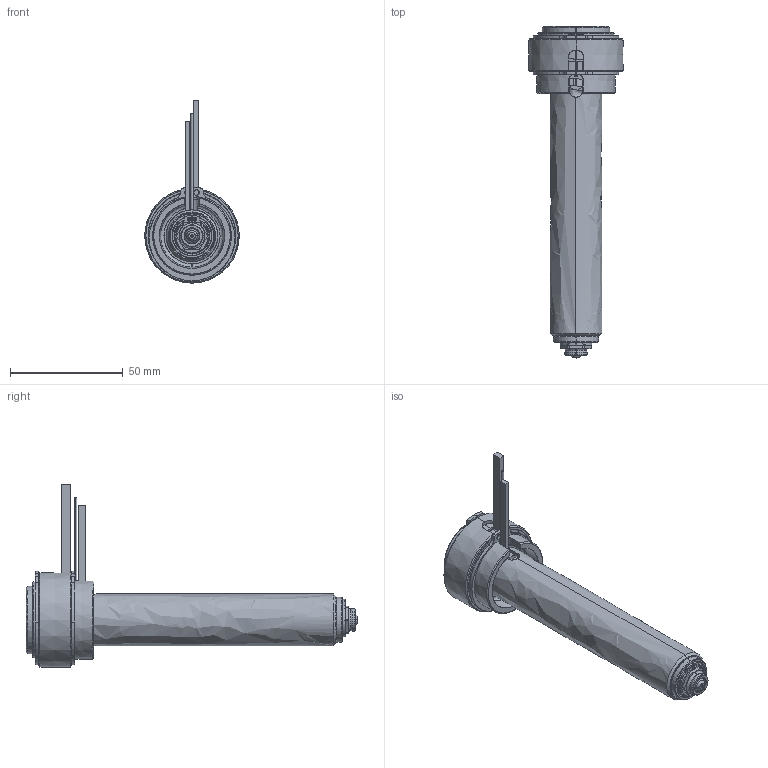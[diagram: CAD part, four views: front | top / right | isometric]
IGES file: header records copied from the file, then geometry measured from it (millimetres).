
Start section: SolidWorks IGES file using analytic representation for surfaces
Global section: file name: C:\Documents and Settings\ws-20\Desktop\TEM\UGER3553-M-A-0 [Øb-1.10  ØC-6.0].IGS; native system: SolidWorks 2012; preprocessor: SolidWorks 2012; author: ws-20; date: 120410.094748; units: millimetre
Bounding box: 42 x 147.4 x 80.9 mm (x, y, z)
Surface area: 43916.7 mm2 (no closed solid volume)
Topology: 0 solids, 0 shells, 199 faces, 3294 edges, 3294 vertices
Faces by surface type: revolution 126, bspline 73
